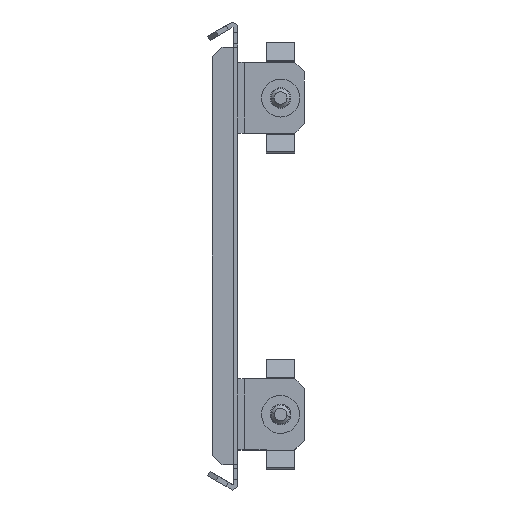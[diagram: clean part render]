
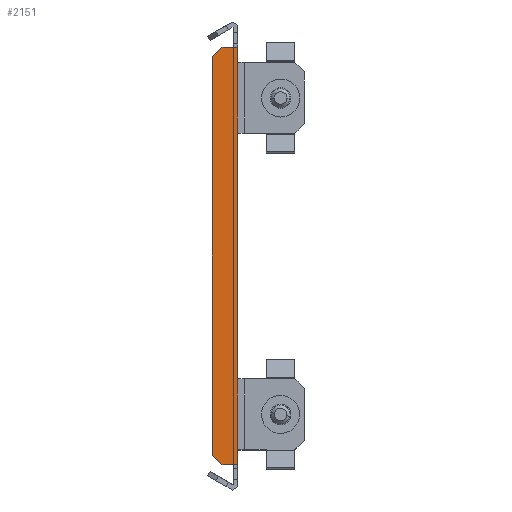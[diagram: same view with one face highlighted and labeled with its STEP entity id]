
A CAD part, front view. The second image highlights one B-rep face of the part: STEP entity #2151.
In plain terms, the highlighted planar face has unit normal (0, -1, 0).
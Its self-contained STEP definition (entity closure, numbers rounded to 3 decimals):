
#548 = DIRECTION ( 'NONE',  ( 1., 0., 0. ) ) ;
#572 = VECTOR ( 'NONE', #694, 1000. ) ;
#694 = DIRECTION ( 'NONE',  ( -0.707, 0., -0.707 ) ) ;
#1122 = LINE ( 'NONE', #9316, #2886 ) ;
#1732 = LINE ( 'NONE', #15306, #11981 ) ;
#1742 = CARTESIAN_POINT ( 'NONE',  ( 0., -253., 65.897 ) ) ;
#1908 = CARTESIAN_POINT ( 'NONE',  ( 0., -253., 0. ) ) ;
#2047 = ORIENTED_EDGE ( 'NONE', *, *, #9292, .T. ) ;
#2137 = LINE ( 'NONE', #4576, #3147 ) ;
#2151 = ADVANCED_FACE ( 'NONE', ( #16795 ), #15455, .F. ) ;
#2355 = ORIENTED_EDGE ( 'NONE', *, *, #12761, .T. ) ;
#2399 = VERTEX_POINT ( 'NONE', #14523 ) ;
#2533 = DIRECTION ( 'NONE',  ( -1., 0., 0. ) ) ;
#2669 = VERTEX_POINT ( 'NONE', #14066 ) ;
#2886 = VECTOR ( 'NONE', #14790, 1000. ) ;
#2955 = ORIENTED_EDGE ( 'NONE', *, *, #13592, .T. ) ;
#3081 = EDGE_CURVE ( 'NONE', #2399, #2669, #10411, .T. ) ;
#3127 = EDGE_CURVE ( 'NONE', #15450, #8485, #2137, .T. ) ;
#3136 = CARTESIAN_POINT ( 'NONE',  ( 0., -253., 0. ) ) ;
#3147 = VECTOR ( 'NONE', #10067, 1000. ) ;
#3279 = ORIENTED_EDGE ( 'NONE', *, *, #16780, .T. ) ;
#3387 = LINE ( 'NONE', #16956, #4005 ) ;
#3707 = LINE ( 'NONE', #16110, #16082 ) ;
#3836 = EDGE_LOOP ( 'NONE', ( #16298, #2047, #17489, #2955, #7201, #5105, #2355, #12639, #3279, #5031, #14605, #4454 ) ) ;
#3851 = CARTESIAN_POINT ( 'NONE',  ( -2.5, -253., -65.897 ) ) ;
#4005 = VECTOR ( 'NONE', #14365, 1000. ) ;
#4454 = ORIENTED_EDGE ( 'NONE', *, *, #13378, .T. ) ;
#4568 = CARTESIAN_POINT ( 'NONE',  ( -2.5, -253., 65.897 ) ) ;
#4576 = CARTESIAN_POINT ( 'NONE',  ( 0., -253., 65.897 ) ) ;
#5000 = VERTEX_POINT ( 'NONE', #16985 ) ;
#5031 = ORIENTED_EDGE ( 'NONE', *, *, #3081, .T. ) ;
#5105 = ORIENTED_EDGE ( 'NONE', *, *, #6934, .T. ) ;
#5688 = DIRECTION ( 'NONE',  ( 0.707, 0., -0.707 ) ) ;
#6025 = VECTOR ( 'NONE', #6321, 1000. ) ;
#6223 = VERTEX_POINT ( 'NONE', #3851 ) ;
#6321 = DIRECTION ( 'NONE',  ( 0., 0., 1. ) ) ;
#6335 = CARTESIAN_POINT ( 'NONE',  ( 0., -253., 0. ) ) ;
#6934 = EDGE_CURVE ( 'NONE', #13094, #14535, #16209, .T. ) ;
#7201 = ORIENTED_EDGE ( 'NONE', *, *, #14686, .T. ) ;
#8011 = DIRECTION ( 'NONE',  ( 0., 0., 1. ) ) ;
#8466 = DIRECTION ( 'NONE',  ( 1., 0., 0. ) ) ;
#8485 = VERTEX_POINT ( 'NONE', #1742 ) ;
#8655 = LINE ( 'NONE', #14140, #14895 ) ;
#8973 = CARTESIAN_POINT ( 'NONE',  ( -35.448, -253., 35.448 ) ) ;
#9096 = CARTESIAN_POINT ( 'NONE',  ( 0., -253., 0. ) ) ;
#9211 = CARTESIAN_POINT ( 'NONE',  ( 0., -253., 65.897 ) ) ;
#9292 = EDGE_CURVE ( 'NONE', #6223, #14019, #1732, .T. ) ;
#9316 = CARTESIAN_POINT ( 'NONE',  ( -8., -253., 0. ) ) ;
#9747 = LINE ( 'NONE', #12518, #16352 ) ;
#10067 = DIRECTION ( 'NONE',  ( 1., 0., 0. ) ) ;
#10100 = LINE ( 'NONE', #9096, #13510 ) ;
#10199 = CARTESIAN_POINT ( 'NONE',  ( 0., -253., 38.75 ) ) ;
#10411 = LINE ( 'NONE', #8973, #572 ) ;
#10453 = EDGE_CURVE ( 'NONE', #11593, #6223, #8655, .T. ) ;
#10698 = CARTESIAN_POINT ( 'NONE',  ( 0., -253., -65.897 ) ) ;
#11547 = CARTESIAN_POINT ( 'NONE',  ( -5., -253., -65.897 ) ) ;
#11593 = VERTEX_POINT ( 'NONE', #11547 ) ;
#11821 = DIRECTION ( 'NONE',  ( 0., 0., 1. ) ) ;
#11981 = VECTOR ( 'NONE', #8466, 1000. ) ;
#11985 = LINE ( 'NONE', #9211, #13704 ) ;
#12518 = CARTESIAN_POINT ( 'NONE',  ( -35.448, -253., -35.448 ) ) ;
#12529 = VECTOR ( 'NONE', #11821, 1000. ) ;
#12639 = ORIENTED_EDGE ( 'NONE', *, *, #3127, .F. ) ;
#12701 = CARTESIAN_POINT ( 'NONE',  ( 0., -253., 61.095 ) ) ;
#12761 = EDGE_CURVE ( 'NONE', #14535, #8485, #3387, .T. ) ;
#13094 = VERTEX_POINT ( 'NONE', #10199 ) ;
#13378 = EDGE_CURVE ( 'NONE', #5000, #11593, #9747, .T. ) ;
#13510 = VECTOR ( 'NONE', #8011, 1000. ) ;
#13592 = EDGE_CURVE ( 'NONE', #16195, #15372, #10100, .T. ) ;
#13704 = VECTOR ( 'NONE', #2533, 1000. ) ;
#13824 = DIRECTION ( 'NONE',  ( 1., 0., 0. ) ) ;
#14019 = VERTEX_POINT ( 'NONE', #10698 ) ;
#14034 = CARTESIAN_POINT ( 'NONE',  ( 0., -253., -61.095 ) ) ;
#14066 = CARTESIAN_POINT ( 'NONE',  ( -8., -253., 62.897 ) ) ;
#14140 = CARTESIAN_POINT ( 'NONE',  ( 0., -253., -65.897 ) ) ;
#14150 = LINE ( 'NONE', #1908, #6025 ) ;
#14365 = DIRECTION ( 'NONE',  ( 0., 0., 1. ) ) ;
#14523 = CARTESIAN_POINT ( 'NONE',  ( -5., -253., 65.897 ) ) ;
#14535 = VERTEX_POINT ( 'NONE', #12701 ) ;
#14605 = ORIENTED_EDGE ( 'NONE', *, *, #15998, .T. ) ;
#14686 = EDGE_CURVE ( 'NONE', #15372, #13094, #14150, .T. ) ;
#14790 = DIRECTION ( 'NONE',  ( 0., 0., -1. ) ) ;
#14895 = VECTOR ( 'NONE', #548, 1000. ) ;
#14933 = EDGE_CURVE ( 'NONE', #14019, #16195, #3707, .T. ) ;
#15271 = CARTESIAN_POINT ( 'NONE',  ( 0., -253., -38.75 ) ) ;
#15306 = CARTESIAN_POINT ( 'NONE',  ( -2.5, -253., -65.897 ) ) ;
#15372 = VERTEX_POINT ( 'NONE', #15271 ) ;
#15450 = VERTEX_POINT ( 'NONE', #4568 ) ;
#15455 = PLANE ( 'NONE',  #16648 ) ;
#15998 = EDGE_CURVE ( 'NONE', #2669, #5000, #1122, .T. ) ;
#16082 = VECTOR ( 'NONE', #16281, 1000. ) ;
#16110 = CARTESIAN_POINT ( 'NONE',  ( 0., -253., 0. ) ) ;
#16195 = VERTEX_POINT ( 'NONE', #14034 ) ;
#16209 = LINE ( 'NONE', #6335, #12529 ) ;
#16281 = DIRECTION ( 'NONE',  ( 0., 0., 1. ) ) ;
#16298 = ORIENTED_EDGE ( 'NONE', *, *, #10453, .T. ) ;
#16352 = VECTOR ( 'NONE', #5688, 1000. ) ;
#16648 = AXIS2_PLACEMENT_3D ( 'NONE', #3136, #16885, #13824 ) ;
#16780 = EDGE_CURVE ( 'NONE', #15450, #2399, #11985, .T. ) ;
#16795 = FACE_OUTER_BOUND ( 'NONE', #3836, .T. ) ;
#16885 = DIRECTION ( 'NONE',  ( 0., 1., 0. ) ) ;
#16956 = CARTESIAN_POINT ( 'NONE',  ( 0., -253., 0. ) ) ;
#16985 = CARTESIAN_POINT ( 'NONE',  ( -8., -253., -62.897 ) ) ;
#17489 = ORIENTED_EDGE ( 'NONE', *, *, #14933, .T. ) ;
